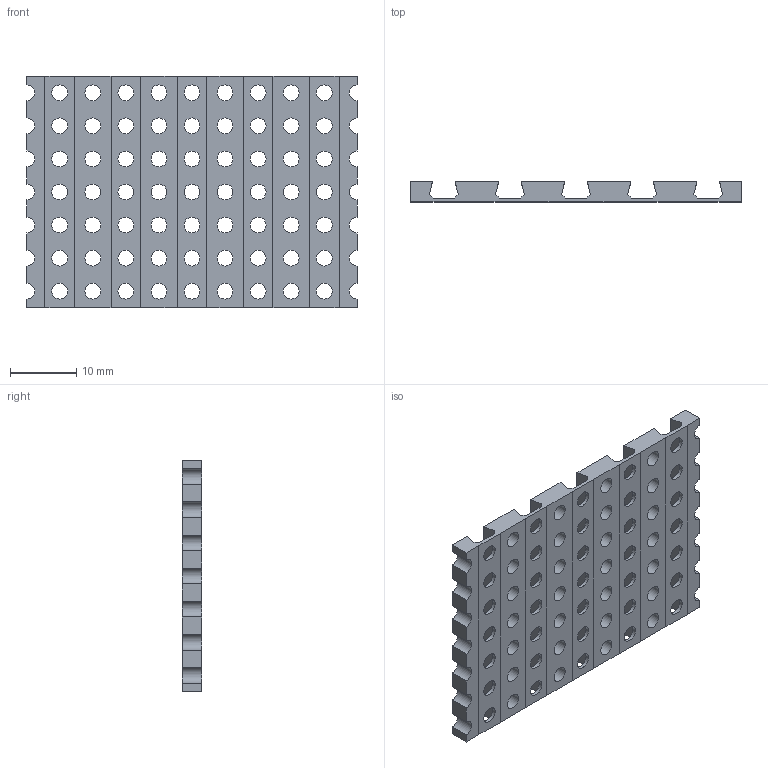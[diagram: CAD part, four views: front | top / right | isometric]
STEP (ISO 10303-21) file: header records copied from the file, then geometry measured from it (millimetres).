
FILE_DESCRIPTION(/* description */ (''),/* implementation_level */ '2;1');
FILE_NAME(/* name */ 'C:/Users/priba/Downloads/PlateHorizontal50x35.step',/* time_stamp */ '2022-04-07T07:42:30+02:00',/* author */ (''),/* organization */ (''),/* preprocessor_version */ 'ST-DEVELOPER v18.1',/* originating_system */ 'Autodesk Translation Framework v10.13.0.1454',/* authorisation */ '');
FILE_SCHEMA (('AUTOMOTIVE_DESIGN { 1 0 10303 214 3 1 1 }'));
Length unit declared in the file: millimetre
Products named in the file (1): PlateHorizontal50x35
Bounding box: 50 x 3 x 35 mm (x, y, z)
Volume: 3025.1 mm3; surface area: 5049.2 mm2
Topology: 1 solids, 1 shells, 137 faces, 405 edges, 270 vertices
Faces by surface type: cylinder 77, plane 60
Full cylindrical faces by diameter (mm): 2.4 x63
Entity records: 4907 total; most frequent: DIRECTION 835, CARTESIAN_POINT 813, ORIENTED_EDGE 810, EDGE_CURVE 405, AXIS2_PLACEMENT_3D 292, VERTEX_POINT 270, EDGE_LOOP 263, LINE 251
